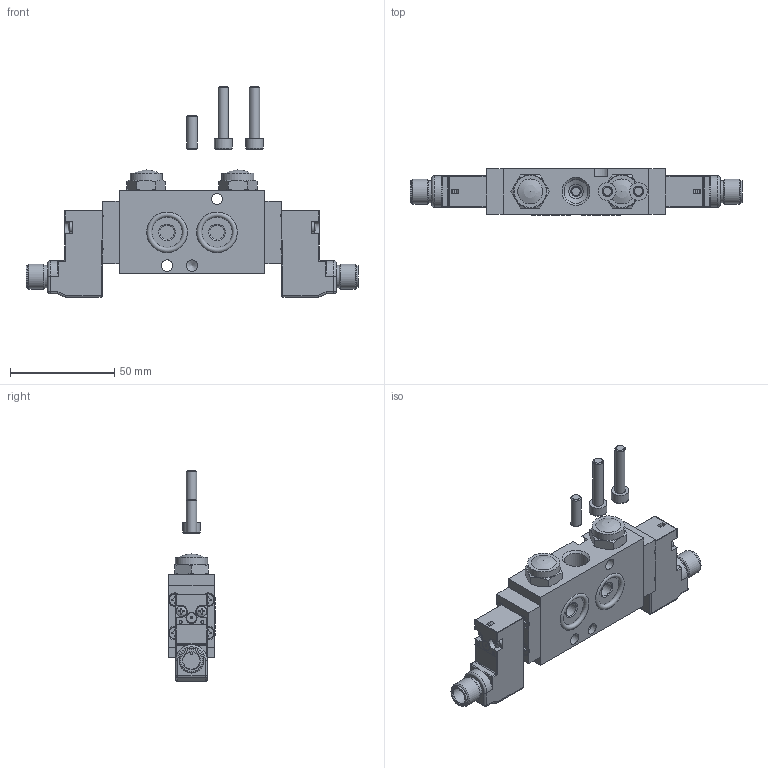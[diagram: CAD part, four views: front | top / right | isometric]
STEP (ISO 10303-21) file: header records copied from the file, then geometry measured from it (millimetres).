
FILE_DESCRIPTION(/* description */ ('STEP AP203'),/* implementation_level */ '2;1');
FILE_NAME(/* name */ 'P_MZ_Z_1981',/* time_stamp */ '2025-04-07T13:38:13+02:00',/* author */ ('License CC BY-ND 4.0'),/* organization */ ('CADENAS'),/* preprocessor_version */ 'ST-DEVELOPER v19.3',/* originating_system */ 'PARTsolutions',/* authorisation */ ' ');
FILE_SCHEMA (('CONFIG_CONTROL_DESIGN'));
Length unit declared in the file: millimetre
Products named in the file (5): P_MZ_Z_1981; P_MZ_Z_1981_P1; P_MZ_Z_1980_P2; P_MZ_Z_1980_P12; P_MZ_Z_1980_P13
Assembly tree (6 placements, depth 2):
  P_MZ_Z_1981
    P_MZ_Z_1981_P1
    P_MZ_Z_1980_P2  x2
    P_MZ_Z_1980_P12  x2
    P_MZ_Z_1980_P13
Bounding box: 159.5 x 22.49 x 101.25 mm (x, y, z)
Volume: 100545.3 mm3; surface area: 26827.1 mm2
Topology: 6 solids, 8 shells, 638 faces, 1635 edges, 1047 vertices
Faces by surface type: plane 414, cylinder 126, cone 62, torus 18, sphere 14, bspline 4
Full cylindrical faces by diameter (mm): 1.2 x2, 1.55 x4, 2 x2, 4.8 x2, 4.9 x2, 5 x7, 5.5 x11, 7 x3, 8.3 x2, 8.5 x2, 10.5 x2, 10.7 x2, 11.445 x1, 12 x2, 15.5 x2, 19.5 x4
Entity records: 16694 total; most frequent: CARTESIAN_POINT 2578, DIRECTION 2204, ORIENTED_EDGE 2190, EDGE_CURVE 1095, LINE 778, VECTOR 778, VERTEX_POINT 747, AXIS2_PLACEMENT_3D 713
